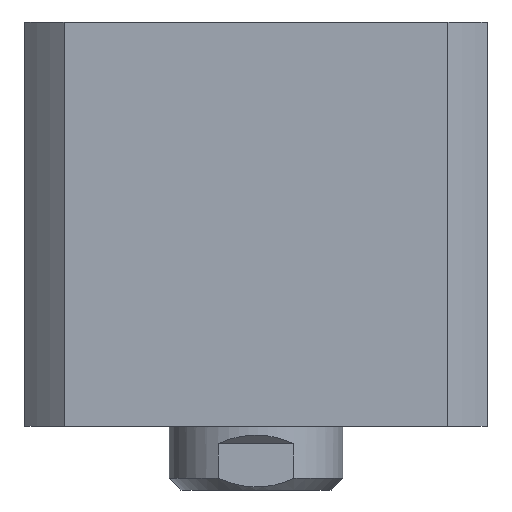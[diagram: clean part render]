
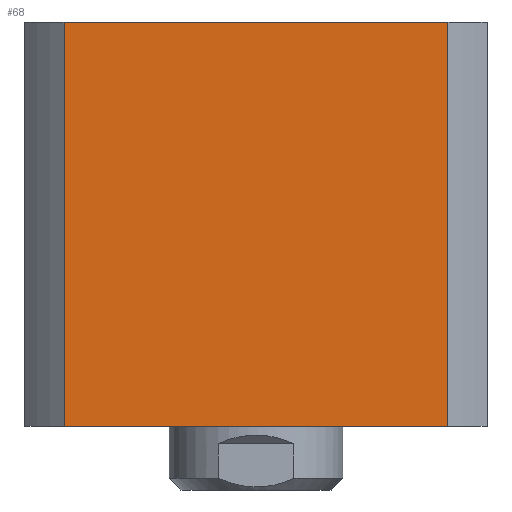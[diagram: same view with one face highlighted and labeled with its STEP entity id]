
A CAD part, left-side view. The second image highlights one B-rep face of the part: STEP entity #68.
In plain terms, the highlighted planar face has unit normal (-1, 0, 0).
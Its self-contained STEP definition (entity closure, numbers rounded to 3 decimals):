
#68 = ADVANCED_FACE ( 'NONE', ( #3206 ), #11663, .F. ) ;
#145 = VECTOR ( 'NONE', #8537, 1000. ) ;
#382 = CARTESIAN_POINT ( 'NONE',  ( -40., -33.226, 35. ) ) ;
#694 = EDGE_CURVE ( 'NONE', #13768, #857, #5576, .T. ) ;
#857 = VERTEX_POINT ( 'NONE', #12030 ) ;
#1751 = EDGE_CURVE ( 'NONE', #12927, #857, #5907, .T. ) ;
#2093 = CARTESIAN_POINT ( 'NONE',  ( -40., 33.226, 35. ) ) ;
#3206 = FACE_OUTER_BOUND ( 'NONE', #7380, .T. ) ;
#3480 = DIRECTION ( 'NONE',  ( 0., 0., -1. ) ) ;
#3638 = EDGE_CURVE ( 'NONE', #9495, #13768, #8916, .T. ) ;
#3858 = AXIS2_PLACEMENT_3D ( 'NONE', #6325, #12832, #13877 ) ;
#4779 = CARTESIAN_POINT ( 'NONE',  ( -40., 33.226, -35. ) ) ;
#5576 = LINE ( 'NONE', #13167, #9969 ) ;
#5775 = CARTESIAN_POINT ( 'NONE',  ( -40., 33.226, 35. ) ) ;
#5839 = CARTESIAN_POINT ( 'NONE',  ( -40., 33.226, 35. ) ) ;
#5907 = LINE ( 'NONE', #12652, #145 ) ;
#6325 = CARTESIAN_POINT ( 'NONE',  ( -40., 33.226, 35. ) ) ;
#7380 = EDGE_LOOP ( 'NONE', ( #7648, #12962, #8621, #11458 ) ) ;
#7648 = ORIENTED_EDGE ( 'NONE', *, *, #1751, .T. ) ;
#8537 = DIRECTION ( 'NONE',  ( 0., -1., 0. ) ) ;
#8621 = ORIENTED_EDGE ( 'NONE', *, *, #3638, .F. ) ;
#8916 = LINE ( 'NONE', #5775, #12481 ) ;
#9495 = VERTEX_POINT ( 'NONE', #2093 ) ;
#9969 = VECTOR ( 'NONE', #3480, 1000. ) ;
#11248 = LINE ( 'NONE', #5839, #13774 ) ;
#11394 = DIRECTION ( 'NONE',  ( 0., -1., 0. ) ) ;
#11458 = ORIENTED_EDGE ( 'NONE', *, *, #11760, .T. ) ;
#11663 = PLANE ( 'NONE',  #3858 ) ;
#11760 = EDGE_CURVE ( 'NONE', #9495, #12927, #11248, .T. ) ;
#12030 = CARTESIAN_POINT ( 'NONE',  ( -40., -33.226, -35. ) ) ;
#12481 = VECTOR ( 'NONE', #11394, 1000. ) ;
#12652 = CARTESIAN_POINT ( 'NONE',  ( -40., 33.226, -35. ) ) ;
#12832 = DIRECTION ( 'NONE',  ( 1., 0., 0. ) ) ;
#12927 = VERTEX_POINT ( 'NONE', #4779 ) ;
#12962 = ORIENTED_EDGE ( 'NONE', *, *, #694, .F. ) ;
#13167 = CARTESIAN_POINT ( 'NONE',  ( -40., -33.226, 35. ) ) ;
#13526 = DIRECTION ( 'NONE',  ( 0., 0., -1. ) ) ;
#13768 = VERTEX_POINT ( 'NONE', #382 ) ;
#13774 = VECTOR ( 'NONE', #13526, 1000. ) ;
#13877 = DIRECTION ( 'NONE',  ( 0., 1., 0. ) ) ;
